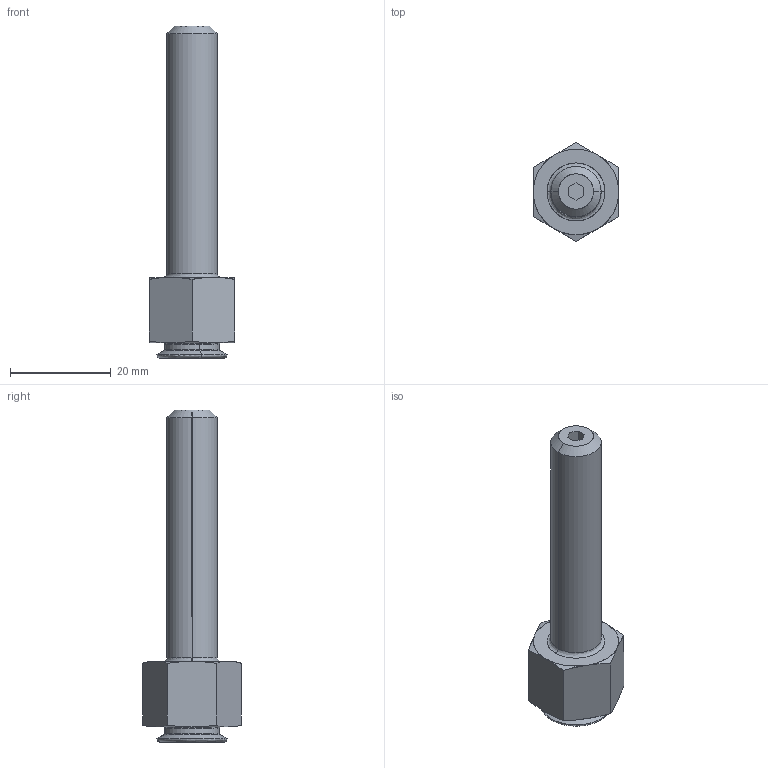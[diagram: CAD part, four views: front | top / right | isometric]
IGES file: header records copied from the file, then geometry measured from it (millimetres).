
Start section: SolidWorks IGES file using analytic representation for surfaces
Global section: file name: X:\11_SW2020-Inv2020\00_全2021-11新製品まで\b\BUH-10050-DS\buh-10050-ds.IGS; native system: SolidWorks 2020; preprocessor: SolidWorks 2020; author: ImaoCorp; date: 211025.100219; units: millimetre
Bounding box: 17 x 19.63 x 66 mm (x, y, z)
Surface area: 3077.1 mm2 (no closed solid volume)
Topology: 0 solids, 0 shells, 52 faces, 580 edges, 580 vertices
Faces by surface type: revolution 26, bspline 26
